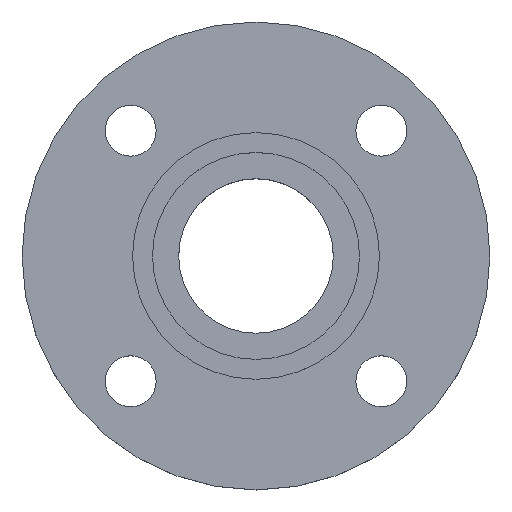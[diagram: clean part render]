
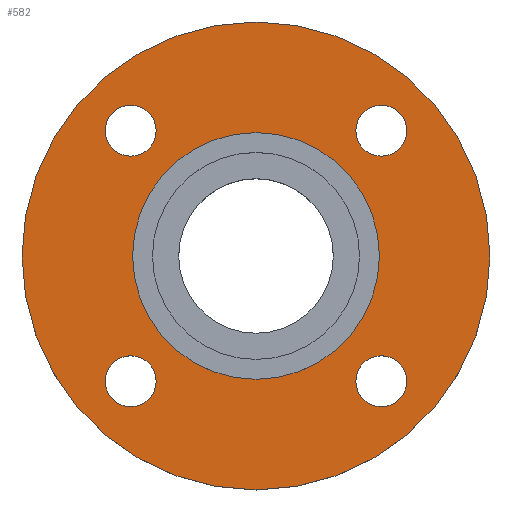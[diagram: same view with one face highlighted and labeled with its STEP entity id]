
A CAD part, top view. The second image highlights one B-rep face of the part: STEP entity #582.
In plain terms, the highlighted planar face has unit normal (0, 0, 1).
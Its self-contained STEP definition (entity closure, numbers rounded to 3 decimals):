
#14 = CIRCLE ( 'NONE', #198, 82.5 ) ;
#16 = CARTESIAN_POINT ( 'NONE',  ( -35.194, -44.194, -4.5 ) ) ;
#21 = CARTESIAN_POINT ( 'NONE',  ( 82.5, 0., -4.5 ) ) ;
#26 = CARTESIAN_POINT ( 'NONE',  ( 35.194, -44.194, -4.5 ) ) ;
#34 = CARTESIAN_POINT ( 'NONE',  ( 35.194, 44.194, -4.5 ) ) ;
#47 = CARTESIAN_POINT ( 'NONE',  ( -82.5, 0., -4.5 ) ) ;
#51 = CARTESIAN_POINT ( 'NONE',  ( -53.194, 44.194, -4.5 ) ) ;
#64 = CARTESIAN_POINT ( 'NONE',  ( 53.194, 44.194, -4.5 ) ) ;
#65 = CARTESIAN_POINT ( 'NONE',  ( -35.194, 44.194, -4.5 ) ) ;
#72 = CARTESIAN_POINT ( 'NONE',  ( 53.194, -44.194, -4.5 ) ) ;
#82 = CARTESIAN_POINT ( 'NONE',  ( -53.194, -44.194, -4.5 ) ) ;
#92 = DIRECTION ( 'NONE',  ( -1., 0., 0. ) ) ;
#93 = DIRECTION ( 'NONE',  ( 0., 0., -1. ) ) ;
#94 = CARTESIAN_POINT ( 'NONE',  ( 0., 0., -4.5 ) ) ;
#96 = DIRECTION ( 'NONE',  ( 1., 0., 0. ) ) ;
#97 = DIRECTION ( 'NONE',  ( 1., 0., 0. ) ) ;
#98 = DIRECTION ( 'NONE',  ( 0., 0., -1. ) ) ;
#99 = DIRECTION ( 'NONE',  ( 0., 0., 1. ) ) ;
#100 = CARTESIAN_POINT ( 'NONE',  ( -44.194, -44.194, -4.5 ) ) ;
#104 = CARTESIAN_POINT ( 'NONE',  ( 43.5, 0., -4.5 ) ) ;
#105 = PLANE ( 'NONE',  #421 ) ;
#108 = FACE_OUTER_BOUND ( 'NONE', #660, .T. ) ;
#112 = FACE_BOUND ( 'NONE', #719, .T. ) ;
#114 = FACE_BOUND ( 'NONE', #728, .T. ) ;
#115 = FACE_BOUND ( 'NONE', #744, .T. ) ;
#116 = FACE_BOUND ( 'NONE', #712, .T. ) ;
#117 = FACE_BOUND ( 'NONE', #689, .T. ) ;
#128 = CIRCLE ( 'NONE', #130, 9. ) ;
#130 = AXIS2_PLACEMENT_3D ( 'NONE', #624, #623, #622 ) ;
#141 = AXIS2_PLACEMENT_3D ( 'NONE', #591, #590, #589 ) ;
#159 = CIRCLE ( 'NONE', #160, 82.5 ) ;
#160 = AXIS2_PLACEMENT_3D ( 'NONE', #611, #610, #608 ) ;
#161 = EDGE_CURVE ( 'NONE', #741, #668, #128, .T. ) ;
#165 = CIRCLE ( 'NONE', #141, 9. ) ;
#182 = CIRCLE ( 'NONE', #426, 43.5 ) ;
#185 = EDGE_CURVE ( 'NONE', #747, #711, #159, .T. ) ;
#198 = AXIS2_PLACEMENT_3D ( 'NONE', #94, #93, #92 ) ;
#218 = CIRCLE ( 'NONE', #224, 9. ) ;
#224 = AXIS2_PLACEMENT_3D ( 'NONE', #453, #456, #458 ) ;
#244 = EDGE_CURVE ( 'NONE', #668, #741, #165, .T. ) ;
#246 = CIRCLE ( 'NONE', #252, 9. ) ;
#252 = AXIS2_PLACEMENT_3D ( 'NONE', #419, #418, #415 ) ;
#254 = EDGE_CURVE ( 'NONE', #330, #341, #182, .T. ) ;
#267 = CIRCLE ( 'NONE', #278, 9. ) ;
#278 = AXIS2_PLACEMENT_3D ( 'NONE', #303, #302, #300 ) ;
#284 = CIRCLE ( 'NONE', #285, 9. ) ;
#285 = AXIS2_PLACEMENT_3D ( 'NONE', #293, #292, #286 ) ;
#286 = DIRECTION ( 'NONE',  ( 1., 0., 0. ) ) ;
#292 = DIRECTION ( 'NONE',  ( 0., 0., -1. ) ) ;
#293 = CARTESIAN_POINT ( 'NONE',  ( 44.194, 44.194, -4.5 ) ) ;
#300 = DIRECTION ( 'NONE',  ( 1., 0., 0. ) ) ;
#302 = DIRECTION ( 'NONE',  ( 0., 0., -1. ) ) ;
#303 = CARTESIAN_POINT ( 'NONE',  ( -44.194, 44.194, -4.5 ) ) ;
#310 = EDGE_CURVE ( 'NONE', #678, #729, #218, .T. ) ;
#317 = CIRCLE ( 'NONE', #321, 9. ) ;
#321 = AXIS2_PLACEMENT_3D ( 'NONE', #325, #331, #349 ) ;
#325 = CARTESIAN_POINT ( 'NONE',  ( -44.194, 44.194, -4.5 ) ) ;
#327 = EDGE_CURVE ( 'NONE', #752, #653, #246, .T. ) ;
#328 = CIRCLE ( 'NONE', #334, 43.5 ) ;
#330 = VERTEX_POINT ( 'NONE', #412 ) ;
#331 = DIRECTION ( 'NONE',  ( 0., 0., -1. ) ) ;
#334 = AXIS2_PLACEMENT_3D ( 'NONE', #347, #609, #604 ) ;
#341 = VERTEX_POINT ( 'NONE', #400 ) ;
#347 = CARTESIAN_POINT ( 'NONE',  ( 0., 0., -4.5 ) ) ;
#349 = DIRECTION ( 'NONE',  ( 1., 0., 0. ) ) ;
#356 = EDGE_CURVE ( 'NONE', #674, #706, #267, .T. ) ;
#372 = EDGE_CURVE ( 'NONE', #729, #678, #284, .T. ) ;
#400 = CARTESIAN_POINT ( 'NONE',  ( 43.5, 0., -4.5 ) ) ;
#412 = CARTESIAN_POINT ( 'NONE',  ( -43.5, 0., -4.5 ) ) ;
#415 = DIRECTION ( 'NONE',  ( 1., 0., 0. ) ) ;
#418 = DIRECTION ( 'NONE',  ( 0., 0., -1. ) ) ;
#419 = CARTESIAN_POINT ( 'NONE',  ( -44.194, -44.194, -4.5 ) ) ;
#421 = AXIS2_PLACEMENT_3D ( 'NONE', #104, #99, #97 ) ;
#426 = AXIS2_PLACEMENT_3D ( 'NONE', #588, #587, #586 ) ;
#437 = CIRCLE ( 'NONE', #563, 9. ) ;
#453 = CARTESIAN_POINT ( 'NONE',  ( 44.194, 44.194, -4.5 ) ) ;
#456 = DIRECTION ( 'NONE',  ( 0., 0., -1. ) ) ;
#458 = DIRECTION ( 'NONE',  ( 1., 0., 0. ) ) ;
#563 = AXIS2_PLACEMENT_3D ( 'NONE', #100, #98, #96 ) ;
#582 = ADVANCED_FACE ( 'NONE', ( #117, #116, #115, #114, #112, #108 ), #105, .T. ) ;
#586 = DIRECTION ( 'NONE',  ( -1., 0., 0. ) ) ;
#587 = DIRECTION ( 'NONE',  ( 0., 0., -1. ) ) ;
#588 = CARTESIAN_POINT ( 'NONE',  ( 0., 0., -4.5 ) ) ;
#589 = DIRECTION ( 'NONE',  ( 1., 0., 0. ) ) ;
#590 = DIRECTION ( 'NONE',  ( 0., 0., -1. ) ) ;
#591 = CARTESIAN_POINT ( 'NONE',  ( 44.194, -44.194, -4.5 ) ) ;
#604 = DIRECTION ( 'NONE',  ( -1., 0., 0. ) ) ;
#608 = DIRECTION ( 'NONE',  ( -1., 0., 0. ) ) ;
#609 = DIRECTION ( 'NONE',  ( 0., 0., -1. ) ) ;
#610 = DIRECTION ( 'NONE',  ( 0., 0., -1. ) ) ;
#611 = CARTESIAN_POINT ( 'NONE',  ( 0., 0., -4.5 ) ) ;
#617 = EDGE_CURVE ( 'NONE', #711, #747, #14, .T. ) ;
#622 = DIRECTION ( 'NONE',  ( 1., 0., 0. ) ) ;
#623 = DIRECTION ( 'NONE',  ( 0., 0., -1. ) ) ;
#624 = CARTESIAN_POINT ( 'NONE',  ( 44.194, -44.194, -4.5 ) ) ;
#653 = VERTEX_POINT ( 'NONE', #82 ) ;
#660 = EDGE_LOOP ( 'NONE', ( #800, #869 ) ) ;
#668 = VERTEX_POINT ( 'NONE', #72 ) ;
#674 = VERTEX_POINT ( 'NONE', #65 ) ;
#678 = VERTEX_POINT ( 'NONE', #64 ) ;
#689 = EDGE_LOOP ( 'NONE', ( #874, #871 ) ) ;
#706 = VERTEX_POINT ( 'NONE', #51 ) ;
#711 = VERTEX_POINT ( 'NONE', #47 ) ;
#712 = EDGE_LOOP ( 'NONE', ( #876, #870 ) ) ;
#719 = EDGE_LOOP ( 'NONE', ( #865, #866 ) ) ;
#728 = EDGE_LOOP ( 'NONE', ( #863, #864 ) ) ;
#729 = VERTEX_POINT ( 'NONE', #34 ) ;
#741 = VERTEX_POINT ( 'NONE', #26 ) ;
#744 = EDGE_LOOP ( 'NONE', ( #799, #868 ) ) ;
#747 = VERTEX_POINT ( 'NONE', #21 ) ;
#752 = VERTEX_POINT ( 'NONE', #16 ) ;
#776 = EDGE_CURVE ( 'NONE', #706, #674, #317, .T. ) ;
#790 = EDGE_CURVE ( 'NONE', #341, #330, #328, .T. ) ;
#799 = ORIENTED_EDGE ( 'NONE', *, *, #356, .T. ) ;
#800 = ORIENTED_EDGE ( 'NONE', *, *, #185, .F. ) ;
#863 = ORIENTED_EDGE ( 'NONE', *, *, #310, .T. ) ;
#864 = ORIENTED_EDGE ( 'NONE', *, *, #372, .T. ) ;
#865 = ORIENTED_EDGE ( 'NONE', *, *, #254, .T. ) ;
#866 = ORIENTED_EDGE ( 'NONE', *, *, #790, .T. ) ;
#868 = ORIENTED_EDGE ( 'NONE', *, *, #776, .T. ) ;
#869 = ORIENTED_EDGE ( 'NONE', *, *, #617, .F. ) ;
#870 = ORIENTED_EDGE ( 'NONE', *, *, #899, .T. ) ;
#871 = ORIENTED_EDGE ( 'NONE', *, *, #161, .T. ) ;
#874 = ORIENTED_EDGE ( 'NONE', *, *, #244, .T. ) ;
#876 = ORIENTED_EDGE ( 'NONE', *, *, #327, .T. ) ;
#899 = EDGE_CURVE ( 'NONE', #653, #752, #437, .T. ) ;
